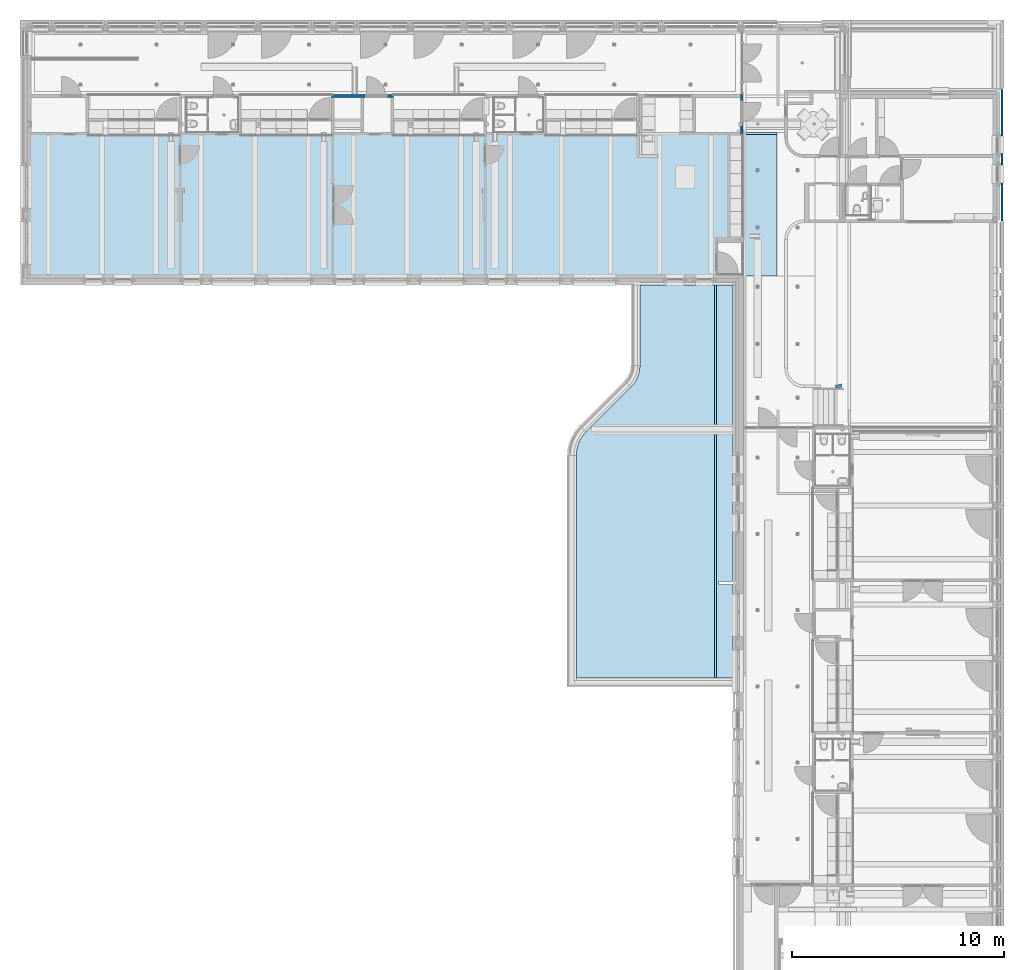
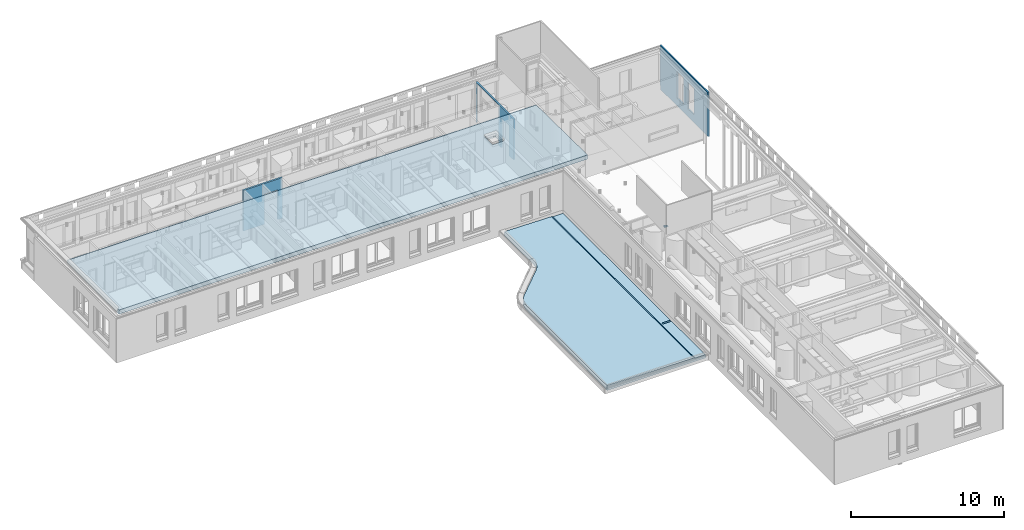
# One storey, part 61 of 128: 4 walls, 2 roofs.
"""IFC2X3 building model written with IfcOpenShell, lengths in millimetres."""

import ifcopenshell
import ifcopenshell.guid

model = None  # the IFC model being written
_history = None  # IfcOwnerHistory: only IFC2X3 demands one
_inside = {}  # id of a spatial element -> (the spatial element, [elements in it])
_under = {}  # id of a project, library or spatial element -> (it, [spatial elements below it])
_declared = {}  # id of a project -> (the project, [libraries it declares])
_typed = {}  # id of a type object -> (the type object, [elements of that type])
_made_of = {}  # id of a material, layer set ... -> (it, [elements and type objects made of it])


def new_model(schema):
    """Start an empty IFC model of exactly this schema.

    Asked for "IFC4X3", IfcOpenShell would pick the latest addendum, in which some entities
    have other attributes; the version numbers below select the first issue.
    IFC2X3 requires an IfcOwnerHistory on every rooted entity: one is made here for all.
    """
    global model, _history
    if schema == "IFC4X3":
        model = ifcopenshell.file(schema_version=(4, 3, 0, 0))
    else:
        model = ifcopenshell.file(schema=schema)
    _inside.clear()
    _under.clear()
    _declared.clear()
    _typed.clear()
    _made_of.clear()
    _history = None
    if model.schema == "IFC2X3":
        org = make("IfcOrganization", Name="unknown")
        user = make(
            "IfcPersonAndOrganization",
            ThePerson=make("IfcPerson", FamilyName="unknown"),
            TheOrganization=org,
        )
        app = make(
            "IfcApplication",
            ApplicationDeveloper=org,
            Version="unknown",
            ApplicationFullName="unknown",
            ApplicationIdentifier="unknown",
        )
        _history = make(
            "IfcOwnerHistory",
            OwningUser=user,
            OwningApplication=app,
            ChangeAction="ADDED",
            CreationDate=0,
        )
    return model


def make(cls, **values):
    """One entity of the class cls with the attributes given. An attribute that is None is left unset."""
    return model.create_entity(
        cls, **{name: value for name, value in values.items() if value is not None}
    )


def entity(cls, *values):
    """Any entity or typed value of the class cls, its attributes in the order of the schema. None: left unset."""
    e = model.create_entity(cls)
    for i, value in enumerate(values):
        if value is not None:
            e[i] = value
    return e


def rooted(cls, **values):
    """An entity with a GlobalId (a new one), such as an element, a storey or a relation."""
    return make(cls, GlobalId=ifcopenshell.guid.new(), OwnerHistory=_history, **values)


def si_unit(unit_type, name, prefix=None):
    """IfcSIUnit, for example si_unit("LENGTHUNIT", "METRE", prefix="MILLI")."""
    return make("IfcSIUnit", UnitType=unit_type, Prefix=prefix, Name=name)


def converted_unit(unit_type, name, factor, base, dimensions=None, offset=None):
    """IfcConversionBasedUnit, such as the inch: factor (a typed value) times the base unit."""
    return make(
        "IfcConversionBasedUnit"
        if offset is None
        else "IfcConversionBasedUnitWithOffset",
        ConversionOffset=offset,
        Dimensions=None
        if dimensions is None
        else entity("IfcDimensionalExponents", *dimensions),
        UnitType=unit_type,
        Name=name,
        ConversionFactor=make(
            "IfcMeasureWithUnit", ValueComponent=factor, UnitComponent=base
        ),
    )


def derived_unit(unit_type, elements):
    """IfcDerivedUnit: a product of units, each with its exponent."""
    return make(
        "IfcDerivedUnit",
        Elements=[
            make("IfcDerivedUnitElement", Unit=unit, Exponent=power)
            for unit, power in elements
        ],
        UnitType=unit_type,
    )


def assignment(units):
    """IfcUnitAssignment: the units of a project."""
    return None if units is None else make("IfcUnitAssignment", Units=units)


def point(xyz):
    """IfcCartesianPoint."""
    return None if xyz is None else make("IfcCartesianPoint", Coordinates=xyz)


def direction(xyz):
    """IfcDirection."""
    return None if xyz is None else make("IfcDirection", DirectionRatios=xyz)


def frame(location, z_axis=None, x_axis=None):
    """IfcAxis2Placement3D, a coordinate frame: its origin and axes. An axis left out is left unset."""
    return make(
        "IfcAxis2Placement3D",
        Location=point(location),
        Axis=direction(z_axis),
        RefDirection=direction(x_axis),
    )


def origin():
    """The frame at (0, 0, 0) with its axes left unset."""
    return frame((0.0, 0.0, 0.0))


def place(relative_to, where):
    """IfcLocalPlacement: puts the frame where relative to a parent placement (None: the world)."""
    return make(
        "IfcLocalPlacement", PlacementRelTo=relative_to, RelativePlacement=where
    )


def context(
    kind, dimensions, precision=None, world=None, true_north=None, identifier=None
):
    """IfcGeometricRepresentationContext, for example the 3D "Model" context."""
    return make(
        "IfcGeometricRepresentationContext",
        ContextIdentifier=identifier,
        ContextType=kind,
        CoordinateSpaceDimension=dimensions,
        Precision=precision,
        WorldCoordinateSystem=world,
        TrueNorth=true_north,
    )


def subcontext(parent, identifier, kind, view, scale=None):
    """IfcGeometricRepresentationSubContext, for example "Body" below "Model"."""
    return make(
        "IfcGeometricRepresentationSubContext",
        ContextIdentifier=identifier,
        ContextType=kind,
        ParentContext=parent,
        TargetScale=scale,
        TargetView=view,
    )


def project(units=None, contexts=None):
    """IfcProject with its units and contexts."""
    return rooted(
        "IfcProject",
        Name="project",
        RepresentationContexts=contexts,
        UnitsInContext=assignment(units),
    )


def spatial(cls, under=None, at=None, **own):
    """A site, building, storey or space (cls), placed at a placement, below another one or the project."""
    s = rooted(cls, ObjectPlacement=at, **own)
    if under is not None:
        _under.setdefault(under.id(), (under, []))[1].append(s)
    return s


def faces_of(points, faces, orient=None, outer=None):
    """IfcFace entities. A face is a list of loops; a loop is a list of indices into points, from 0.

    orient and outer hold one flag for each loop. By default every Orientation is true, the
    first loop of a face is its IfcFaceOuterBound and the others are IfcFaceBound.
    """
    made = []
    for i, loops in enumerate(faces):
        bounds = []
        for j, loop in enumerate(loops):
            is_outer = j == 0 if outer is None else outer[i][j]
            bounds.append(
                make(
                    "IfcFaceOuterBound" if is_outer else "IfcFaceBound",
                    Bound=make("IfcPolyLoop", Polygon=[points[k] for k in loop]),
                    Orientation=True if orient is None else orient[i][j],
                )
            )
        made.append(make("IfcFace", Bounds=bounds))
    return made


def faceted_brep(points, faces, orient=None, outer=None, voids=None):
    """IfcFacetedBrep: a solid bounded by flat faces; with voids (closed shells), ...WithVoids."""
    shared = [point(p) for p in points]
    hull = make("IfcClosedShell", CfsFaces=faces_of(shared, faces, orient, outer))
    if voids is None:
        return make("IfcFacetedBrep", Outer=hull)
    return make(
        "IfcFacetedBrepWithVoids",
        Outer=hull,
        Voids=[
            make(cls, CfsFaces=faces_of(shared, fs, o, b)) for cls, fs, o, b in voids
        ],
    )


def shape(context_of_items, identifier, shape_type, items):
    """IfcShapeRepresentation: the items that make up one representation, for example the "Body"."""
    return make(
        "IfcShapeRepresentation",
        ContextOfItems=context_of_items,
        RepresentationIdentifier=identifier,
        RepresentationType=shape_type,
        Items=items,
    )


def material(Name=None, Category=None):
    """IfcMaterial."""
    return make("IfcMaterial", Name=Name, Category=Category)


def layer(
    of_material, thickness, ventilated=None, Name=None, Category=None, Priority=None
):
    """IfcMaterialLayer: one layer of a wall or slab, of a material (None: an air gap)."""
    return make(
        "IfcMaterialLayer",
        Material=of_material,
        LayerThickness=thickness,
        IsVentilated=ventilated,
        Name=Name,
        Category=Category,
        Priority=Priority,
    )


def layer_set(layers, Name=None):
    """IfcMaterialLayerSet."""
    return make("IfcMaterialLayerSet", MaterialLayers=layers, LayerSetName=Name)


def made_of(thing, what):
    """Note that an element or type object is made of a material, layer set ...; save() writes the relation."""
    if what is not None:
        _made_of.setdefault(what.id(), (what, []))[1].append(thing)
    return thing


def type_object(cls, material=None, **own):
    """A type object (cls), such as IfcWallType, which elements share."""
    return made_of(rooted(cls, **own), material)


def element(
    cls,
    number,
    at=None,
    inside=None,
    cuts=None,
    type_object=None,
    material=None,
    context=None,
    identifier="Body",
    shape_type=None,
    held_by="IfcProductDefinitionShape",
    body=None,
    shapes=None,
    **own,
):
    """One element of the class cls, such as IfcWall. Its Tag is "e" and its number.

    at: its placement. inside: the storey or other place that contains it. cuts: it is an
    opening in that element (IfcRelVoidsElement). A single representation is given by context,
    identifier, shape_type and body (its items); several are given by shapes. held_by: the class
    of the entity that holds the representations. save() writes the other relations.
    """
    e = rooted(cls, Tag="e%d" % number, ObjectPlacement=at, **own)
    if body is not None:
        shapes = [shape(context, identifier, shape_type, body)]
    if shapes is not None:
        e.Representation = make(held_by, Representations=shapes)
    if inside is not None:
        _inside.setdefault(inside.id(), (inside, []))[1].append(e)
    if cuts is not None:
        rooted(
            "IfcRelVoidsElement", RelatingBuildingElement=cuts, RelatedOpeningElement=e
        )
    if type_object is not None:
        _typed.setdefault(type_object.id(), (type_object, []))[1].append(e)
    return made_of(e, material)


def aggregate(whole, parts):
    """IfcRelAggregates: a whole, such as a stair, and the parts it consists of."""
    return rooted("IfcRelAggregates", RelatingObject=whole, RelatedObjects=parts)


def save(model, path):
    """Write the relations noted so far, then the file.

    IfcRelAggregates (storeys below a building ...), IfcRelContainedInSpatialStructure (elements
    in a storey), IfcRelDefinesByType, IfcRelAssociatesMaterial and IfcRelDeclares: one each for
    every whole, place, type object, material and project.
    """
    for whole, parts in _under.values():
        aggregate(whole, parts)
    for where, things in _inside.values():
        rooted(
            "IfcRelContainedInSpatialStructure",
            RelatedElements=things,
            RelatingStructure=where,
        )
    for kind, things in _typed.values():
        rooted("IfcRelDefinesByType", RelatedObjects=things, RelatingType=kind)
    for what, things in _made_of.values():
        rooted("IfcRelAssociatesMaterial", RelatedObjects=things, RelatingMaterial=what)
    for by, libraries in _declared.values():
        rooted("IfcRelDeclares", RelatingContext=by, RelatedDefinitions=libraries)
    model.write(path)


model = new_model("IFC2X3")

# Units and contexts
model_context = context("Model", 3, precision=0.01, world=origin(), true_north=direction((6.123031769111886e-17, 1.0)))
body_context = subcontext(model_context, "Body", "Model", "MODEL_VIEW")
ifc_project = project(units=[si_unit("LENGTHUNIT", "METRE", prefix="MILLI"), si_unit("AREAUNIT", "SQUARE_METRE"), si_unit("VOLUMEUNIT", "CUBIC_METRE"), converted_unit("PLANEANGLEUNIT", "DEGREE", entity("IfcRatioMeasure", 0.017453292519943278), si_unit("PLANEANGLEUNIT", "RADIAN"), dimensions=[0, 0, 0, 0, 0, 0, 0]), si_unit("MASSUNIT", "GRAM", prefix="KILO"), derived_unit("MASSDENSITYUNIT", [(si_unit("MASSUNIT", "GRAM", prefix="KILO"), 1), (si_unit("LENGTHUNIT", "METRE"), -3)]), derived_unit("IONCONCENTRATIONUNIT", [(si_unit("MASSUNIT", "GRAM", prefix="KILO"), 1), (si_unit("LENGTHUNIT", "METRE"), -3)]), derived_unit("MOMENTOFINERTIAUNIT", [(si_unit("LENGTHUNIT", "METRE"), 4)]), si_unit("TIMEUNIT", "SECOND"), si_unit("FREQUENCYUNIT", "HERTZ"), si_unit("THERMODYNAMICTEMPERATUREUNIT", "DEGREE_CELSIUS"), derived_unit("THERMALTRANSMITTANCEUNIT", [(si_unit("MASSUNIT", "GRAM", prefix="KILO"), 1), (si_unit("THERMODYNAMICTEMPERATUREUNIT", "KELVIN"), -1), (si_unit("TIMEUNIT", "SECOND"), -3)]), derived_unit("THERMALCONDUCTANCEUNIT", [(si_unit("MASSUNIT", "GRAM", prefix="KILO"), 1), (si_unit("THERMODYNAMICTEMPERATUREUNIT", "KELVIN"), -1), (si_unit("TIMEUNIT", "SECOND"), -3), (si_unit("LENGTHUNIT", "METRE"), 1)]), derived_unit("VOLUMETRICFLOWRATEUNIT", [(si_unit("LENGTHUNIT", "METRE"), 3), (si_unit("TIMEUNIT", "SECOND"), -1)]), derived_unit("MASSFLOWRATEUNIT", [(si_unit("MASSUNIT", "GRAM", prefix="KILO"), 1), (si_unit("TIMEUNIT", "SECOND"), -1)]), derived_unit("ROTATIONALFREQUENCYUNIT", [(si_unit("TIMEUNIT", "SECOND"), -1)]), si_unit("ELECTRICCURRENTUNIT", "AMPERE"), si_unit("ELECTRICVOLTAGEUNIT", "VOLT"), si_unit("POWERUNIT", "WATT"), si_unit("FORCEUNIT", "NEWTON", prefix="KILO"), si_unit("ILLUMINANCEUNIT", "LUX"), si_unit("LUMINOUSFLUXUNIT", "LUMEN"), si_unit("LUMINOUSINTENSITYUNIT", "CANDELA"), derived_unit("USERDEFINED", [(si_unit("MASSUNIT", "GRAM", prefix="KILO"), -1), (si_unit("LENGTHUNIT", "METRE"), -2), (si_unit("TIMEUNIT", "SECOND"), 3), (si_unit("LUMINOUSFLUXUNIT", "LUMEN"), 1)]), derived_unit("USERDEFINED", [(si_unit("MASSUNIT", "GRAM", prefix="KILO"), 1), (si_unit("TIMEUNIT", "SECOND"), -3), (si_unit("LENGTHUNIT", "METRE"), 3), (si_unit("ELECTRICCURRENTUNIT", "AMPERE"), -2)]), derived_unit("SOUNDPOWERUNIT", [(si_unit("MASSUNIT", "GRAM", prefix="KILO"), 1), (si_unit("TIMEUNIT", "SECOND"), -3), (si_unit("LENGTHUNIT", "METRE"), 2)]), derived_unit("SOUNDPRESSUREUNIT", [(si_unit("MASSUNIT", "GRAM", prefix="KILO"), 1), (si_unit("LENGTHUNIT", "METRE"), -1), (si_unit("TIMEUNIT", "SECOND"), -2)]), derived_unit("LINEARVELOCITYUNIT", [(si_unit("LENGTHUNIT", "METRE"), 1), (si_unit("TIMEUNIT", "SECOND"), -1)]), si_unit("PRESSUREUNIT", "PASCAL"), derived_unit("USERDEFINED", [(si_unit("MASSUNIT", "GRAM", prefix="KILO"), 1), (si_unit("LENGTHUNIT", "METRE"), -2), (si_unit("TIMEUNIT", "SECOND"), -2)]), derived_unit("LINEARFORCEUNIT", [(si_unit("MASSUNIT", "GRAM", prefix="KILO"), 1), (si_unit("TIMEUNIT", "SECOND"), -2)]), derived_unit("PLANARFORCEUNIT", [(si_unit("MASSUNIT", "GRAM", prefix="KILO"), 1), (si_unit("LENGTHUNIT", "METRE"), -1), (si_unit("TIMEUNIT", "SECOND"), -2)]), derived_unit("SPECIFICHEATCAPACITYUNIT", [(si_unit("THERMODYNAMICTEMPERATUREUNIT", "KELVIN"), -1), (si_unit("LENGTHUNIT", "METRE"), 2), (si_unit("TIMEUNIT", "SECOND"), -2)]), derived_unit("HEATINGVALUEUNIT", [(si_unit("LENGTHUNIT", "METRE"), 2), (si_unit("TIMEUNIT", "SECOND"), -2)]), derived_unit("VAPORPERMEABILITYUNIT", [(si_unit("LENGTHUNIT", "METRE"), -1), (si_unit("TIMEUNIT", "SECOND"), 1)]), derived_unit("DYNAMICVISCOSITYUNIT", [(si_unit("MASSUNIT", "GRAM", prefix="KILO"), 1), (si_unit("TIMEUNIT", "SECOND"), -1), (si_unit("LENGTHUNIT", "METRE"), -1)]), derived_unit("THERMALEXPANSIONCOEFFICIENTUNIT", [(si_unit("THERMODYNAMICTEMPERATUREUNIT", "KELVIN"), -1)]), derived_unit("MODULUSOFELASTICITYUNIT", [(si_unit("MASSUNIT", "GRAM", prefix="KILO"), 1), (si_unit("LENGTHUNIT", "METRE"), -1), (si_unit("TIMEUNIT", "SECOND"), -2)]), derived_unit("ISOTHERMALMOISTURECAPACITYUNIT", [(si_unit("LENGTHUNIT", "METRE"), 3), (si_unit("MASSUNIT", "GRAM", prefix="KILO"), -1)]), derived_unit("MOISTUREDIFFUSIVITYUNIT", [(si_unit("TIMEUNIT", "SECOND"), -1), (si_unit("LENGTHUNIT", "METRE"), 2)])], contexts=[model_context])

# Site, building, storey
site_placement = place(None, frame((0.0, 300.0, 0.0)))
site = spatial("IfcSite", under=ifc_project, at=site_placement, Name="<Kadastrale nummers>", CompositionType="ELEMENT")
building_placement = place(site_placement, origin())
building = spatial("IfcBuilding", under=site, at=building_placement, CompositionType="ELEMENT")
storey_placement = place(building_placement, frame((0.0, 0.0, 3560.0000331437)))
storey = spatial("IfcBuildingStorey", under=building, at=storey_placement, Name="01 eerste verdieping", CompositionType="ELEMENT", Elevation=3560.0000331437)

# Walls
ifc_material_1 = material(Name="ISR_Metselwerk")
ifc_layer_1 = layer(ifc_material_1, 100.0)
ifc_layer_set_1 = layer_set([ifc_layer_1], Name="Basic Wall:21_DAT_metselwerk_100")
wall_type_1 = type_object("IfcWallType", Name="Basic Wall:21_DAT_metselwerk_100", PredefinedType="STANDARD", material=ifc_layer_set_1)
wall_1_placement = place(storey_placement, frame((48925.0, 40740.0, 90.00000187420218), z_axis=(0.0, 0.0, 1.0), x_axis=(0.0, 1.0, 0.0)))
element("IfcWall", 1, at=wall_1_placement, inside=storey, type_object=wall_type_1, Name="Basic Wall:21_DAT_metselwerk_100", ObjectType="Basic Wall:21_DAT_metselwerk_100", context=body_context, shape_type="Brep", body=[
    faceted_brep([(0.0, -50.0, 0.0), (6210.0, -50.0, 0.0), (6210.0, -50.0, 299.99996498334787), (6260.0, -50.0, 299.99996498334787), (6260.0, -50.0, 625.0), (6260.0, -50.0, 3500.0), (0.0, -50.0, 3500.0), (1792.125002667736, -50.0, 625.0), (1792.125002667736, -50.0, 2750.0), (2632.1250026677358, -50.0, 2750.0), (2632.1250026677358, -50.0, 625.0), (3172.1250026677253, -50.0, 625.0), (3172.1250026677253, -50.0, 2750.0), (4012.1250026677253, -50.0, 2750.0), (4012.1250026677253, -50.0, 625.0), (0.0, 50.0, 0.0), (0.0, 50.0, 3500.0), (6160.0, 50.0, 3500.0), (6260.0, 50.0, 3500.0), (6260.0, 50.0, 625.0), (6260.0, 50.0, 299.99996498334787), (6210.0, 50.0, 299.99996498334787), (6210.0, 50.0, 0.0), (3172.1250026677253, 50.0, 2750.0), (3172.1250026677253, 50.0, 625.0), (4012.1250026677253, 50.0, 625.0), (4012.1250026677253, 50.0, 2750.0), (1792.125002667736, 50.0, 2750.0), (1792.125002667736, 50.0, 625.0), (2632.1250026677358, 50.0, 625.0), (2632.1250026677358, 50.0, 2750.0)], [[[0, 1, 2, 3, 4, 5, 6], [7, 8, 9, 10], [11, 12, 13, 14]], [[15, 16, 17, 18, 19, 20, 21, 22], [23, 24, 25, 26], [27, 28, 29, 30]], [[1, 0, 15, 22]], [[6, 5, 18, 17, 16]], [[2, 1, 22, 21]], [[20, 3, 2, 21]], [[0, 6, 16, 15]], [[3, 20, 19, 18, 5, 4]], [[27, 8, 7, 28]], [[10, 29, 28, 7]], [[9, 30, 29, 10]], [[8, 27, 30, 9]], [[23, 12, 11, 24]], [[14, 25, 24, 11]], [[13, 26, 25, 14]], [[12, 23, 26, 13]]]),
])
ifc_material_2 = material(Name="ISR_Gips")
ifc_layer_2 = layer(ifc_material_2, 1.0)
ifc_material_3 = material(Name="ISR_Binnenwand")
ifc_layer_3 = layer(ifc_material_3, 123.0)
ifc_layer_4 = layer(ifc_material_2, 1.0)
ifc_layer_set_2 = layer_set([ifc_layer_2, ifc_layer_3, ifc_layer_4], Name="Basic Wall:22_DAT_binnenwand_125")
wall_type_2 = type_object("IfcWallType", Name="Basic Wall:22_DAT_binnenwand_125", PredefinedType="STANDARD", material=ifc_layer_set_2)
wall_2_placement = place(storey_placement, frame((17280.0, 46637.49999999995, 90.00000187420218)))
element("IfcWall", 2, at=wall_2_placement, inside=storey, type_object=wall_type_2, Name="Basic Wall:22_DAT_binnenwand_125", ObjectType="Basic Wall:22_DAT_binnenwand_125", context=body_context, shape_type="Brep", body=[
    faceted_brep([(2925.0, -62.49999999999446, 3240.0000290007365), (2800.0, -62.49999999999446, 3240.0000290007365), (125.0, -62.49999999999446, 3240.0000290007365), (0.0, -62.49999999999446, 3240.0000290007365), (0.0, -62.49999999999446, 0.0), (125.0, -62.49999999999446, 0.0), (1586.001376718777, -62.49999999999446, 0.0), (1586.001376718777, -62.49999999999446, 2390.0), (2620.0013767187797, -62.49999999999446, 2390.0), (2620.0013767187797, -62.49999999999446, 0.0), (2800.0, -62.49999999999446, 0.0), (2925.0, -62.49999999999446, 0.0), (2925.0, 62.50000000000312, 0.0), (2620.001376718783, 62.50000000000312, 0.0), (2620.001376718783, 62.50000000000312, 2390.0), (1586.0013767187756, 62.50000000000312, 2390.0), (1586.0013767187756, 62.50000000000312, 0.0), (0.0, 62.50000000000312, 0.0), (0.0, 62.50000000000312, 2400.000022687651), (62.500000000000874, 62.50000000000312, 2400.000022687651), (62.500000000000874, 62.50000000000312, 3240.0000290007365), (2925.0, 62.50000000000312, 3240.0000290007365), (2925.0, 62.50000000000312, 2400.000022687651), (62.50000000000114, 37.49999999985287, 3240.0000290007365), (0.0, 37.49999999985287, 3240.0000290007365), (0.0, 37.49999999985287, 2400.000022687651), (62.50000000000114, 37.49999999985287, 3240.0), (62.50000000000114, 37.49999999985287, 2400.000022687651)], [[[0, 1, 2, 3, 4, 5, 6, 7, 8, 9, 10, 11]], [[12, 13, 14, 15, 16, 17, 18, 19, 20, 21, 22]], [[6, 5, 4, 17, 16]], [[3, 2, 1, 0, 21, 20, 23, 24]], [[8, 14, 13, 9]], [[14, 8, 7, 15]], [[15, 7, 6, 16]], [[17, 4, 3, 24, 25, 18]], [[0, 11, 12, 22, 21]], [[26, 27, 25, 24]], [[27, 19, 18, 25]], [[27, 23, 20, 19]], [[11, 10, 9, 13, 12]]]),
])
wall_3_placement = place(storey_placement, frame((36637.50000000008, 49700.0, 90.00000187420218), z_axis=(0.0, 0.0, 1.0), x_axis=(0.0, -1.0, 0.0)))
element("IfcWall", 3, at=wall_3_placement, inside=storey, type_object=wall_type_2, Name="Basic Wall:22_DAT_binnenwand_125", ObjectType="Basic Wall:22_DAT_binnenwand_125", context=body_context, shape_type="Brep", body=[
    faceted_brep([(4910.0, -62.50000000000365, 0.0), (4910.0, -62.50000000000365, 3240.0), (4785.0, -62.50000000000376, 3240.0), (3125.0, -62.500000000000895, 3240.0), (3000.0, -62.500000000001, 3240.0), (0.0, -62.50000000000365, 3240.0), (0.0, -62.50000000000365, 0.0), (15.0, -62.50000000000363, 0.0), (15.0, -62.50000000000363, 3190.0), (2985.0, -62.50000000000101, 3190.0), (2985.0, -62.50000000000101, 0.0), (3000.0, -62.500000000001, 0.0), (3125.0, -62.500000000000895, 0.0), (3295.89025057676, -62.50000000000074, 0.0), (3295.8902505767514, -62.50000000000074, 2390.0), (4329.890250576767, -62.50000000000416, 2390.0), (4329.890250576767, -62.50000000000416, 0.0), (4785.0, -62.50000000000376, 0.0), (0.0, 62.49999999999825, 0.0), (0.0, 62.49999999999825, 3240.0), (4890.0, 62.49999999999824, 3240.0), (4890.0, 62.49999999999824, 2400.000022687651), (4910.0, 62.49999999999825, 2400.000022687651), (4910.0, 62.49999999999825, 0.0), (4329.890250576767, 62.49999999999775, 0.0), (4329.890250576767, 62.49999999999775, 2390.0), (3295.89025057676, 62.500000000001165, 2390.0), (3295.89025057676, 62.500000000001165, 0.0), (2985.0, 62.500000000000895, 0.0), (2985.0, 62.500000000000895, 3190.0), (15.0, 62.499999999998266, 3190.0), (15.0, 62.499999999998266, 0.0), (4910.0, 37.50000000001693, 2400.000022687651), (4910.0, 37.50000000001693, 3240.0), (4890.0, 37.50000000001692, 3240.0), (4890.0, 37.50000000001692, 2400.000022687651)], [[[0, 1, 2, 3, 4, 5, 6, 7, 8, 9, 10, 11, 12, 13, 14, 15, 16, 17]], [[18, 19, 20, 21, 22, 23, 24, 25, 26, 27, 28, 29, 30, 31]], [[6, 18, 31, 7]], [[1, 0, 23, 22, 32, 33]], [[5, 4, 3, 2, 1, 33, 34, 20, 19]], [[6, 5, 19, 18]], [[30, 8, 7, 31]], [[8, 30, 29, 9]], [[9, 29, 28, 10]], [[15, 25, 24, 16]], [[25, 15, 14, 26]], [[26, 14, 13, 27]], [[35, 34, 33, 32]], [[21, 35, 32, 22]], [[34, 35, 21, 20]], [[10, 28, 27, 13, 12, 11]], [[23, 0, 17, 16, 24]]]),
])
wall_type_3 = type_object("IfcWallType", Name="Walls 1:Walls 1", PredefinedType="NOTDEFINED", material=ifc_material_2)
wall_4_placement = place(storey_placement, frame((41075.0, 32870.0, 359.9999668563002)))
element("IfcWall", 4, at=wall_4_placement, inside=storey, type_object=wall_type_3, material=ifc_material_2, Name="Walls 1:Walls 1", ObjectType="Walls 1:Walls 1", context=body_context, shape_type="Brep", body=[
    faceted_brep([(139.79387877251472, 10.624436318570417, 0.0), (70.11480911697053, 2.6611720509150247, 0.0), (0.0, 0.0, 0.0), (0.0, 125.0, 0.0), (93.85347124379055, 130.52437045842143, 0.0), (186.40688508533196, 147.02026170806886, 0.0), (278.2305647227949, 108.26149128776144, 0.0), (208.6774036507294, 23.84588376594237, 0.0), (174.2356412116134, 17.235160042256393, 0.0), (276.3744898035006, 42.25307058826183, 0.0), (260.36658394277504, 37.9004384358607, 0.06589740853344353), (217.33106029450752, 156.38174952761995, 0.029665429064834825), (246.85277504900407, 165.31867900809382, 0.05798548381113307), (261.61363242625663, 169.78714374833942, 0.07214551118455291), (0.0, 0.0, 61.96309018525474), (110.98105335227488, 6.681860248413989, 50.69367660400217), (136.88119570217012, 10.183877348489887, 36.44884538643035), (260.6789533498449, 37.61389954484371, 1.4963996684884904), (254.3100776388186, 35.73143417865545, 2.068582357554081), (247.94120192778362, 33.848968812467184, 2.6407650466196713), (244.35867808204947, 33.54780628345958, 0.04548927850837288), (252.36263101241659, 35.724122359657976, 0.05569334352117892), (55.59100974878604, 1.6719761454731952, 90.57450799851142), (219.53821666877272, 26.43004088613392, 7.545264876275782), (226.51804086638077, 28.696845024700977, 0.02274463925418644), (191.39986822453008, 20.01873475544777, 14.823517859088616), (0.0, 0.0, 96.28153385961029), (38.70766918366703, 1.1641864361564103, 102.73051320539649), (0.0, 0.0, 130.6000350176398), (163.76663955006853, 14.612451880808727, 24.470094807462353), (233.73970929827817, 30.139504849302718, 5.093014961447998), (0.0, 125.0, 98.8574094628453), (0.0, 125.0, 130.60003501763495), (35.86593715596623, 126.24841588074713, 104.7765602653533), (55.62515286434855, 126.93619154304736, 90.54992495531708), (0.0, 125.0, 67.11478390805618), (219.8402864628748, 155.7989544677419, 7.480425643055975), (164.02039946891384, 141.9946944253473, 24.36962090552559), (191.7135068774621, 148.31091723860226, 14.728597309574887), (248.14318088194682, 164.4574556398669, 2.6143978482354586), (261.9904070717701, 169.26336949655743, 1.37438924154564), (276.3744898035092, 174.2556084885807, 0.0), (110.98105335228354, 132.735394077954, 50.69367660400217), (137.02355304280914, 136.82200873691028, 36.378194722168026)], [[[0, 1, 2, 3, 4, 5, 6, 7, 8]], [[6, 9, 10]], [[6, 5, 11, 12, 13]], [[14, 1, 15]], [[16, 1, 0]], [[15, 1, 16]], [[10, 17, 18, 19, 20, 21]], [[2, 1, 14]], [[22, 14, 15]], [[23, 7, 24]], [[10, 9, 17]], [[25, 8, 7]], [[26, 14, 22, 27, 28]], [[29, 8, 25]], [[29, 0, 8]], [[20, 19, 30]], [[25, 7, 23]], [[24, 30, 23]], [[0, 29, 16]], [[20, 30, 24]], [[31, 32, 33, 34, 35]], [[36, 12, 11, 5]], [[5, 37, 38]], [[5, 38, 36]], [[13, 12, 39, 40]], [[5, 4, 37]], [[39, 12, 36]], [[40, 41, 13]], [[42, 3, 35]], [[42, 35, 34]], [[43, 4, 42]], [[3, 42, 4]], [[37, 4, 43]], [[32, 31, 35, 3, 2, 14, 26, 28]], [[15, 42, 34, 33, 32, 28, 27, 22]], [[6, 19, 18, 17]], [[36, 23, 30, 19]], [[6, 41, 40]], [[6, 39, 36]], [[36, 19, 6]], [[36, 38, 23]], [[29, 25, 37]], [[16, 29, 43]], [[15, 16, 42]], [[25, 38, 37]], [[16, 43, 42]], [[43, 29, 37]], [[23, 38, 25]], [[6, 10, 21, 20, 24, 7]], [[6, 13, 41]], [[6, 17, 9]], [[6, 40, 39]]]),
])

# Roofs
ifc_material_4 = material(Name="ISR_Grind")
ifc_layer_5 = layer(ifc_material_4, 50.0)
ifc_material_5 = material(Name="ISR_Bitumen")
ifc_layer_6 = layer(ifc_material_5, 2.0)
ifc_layer_7 = layer(ifc_material_5, 2.0)
ifc_material_6 = material(Name="ISR_Dak_isolatie")
ifc_layer_8 = layer(ifc_material_6, 200.0)
ifc_layer_set_3 = layer_set([ifc_layer_5, ifc_layer_6, ifc_layer_7, ifc_layer_8], Name="Basic Roof:300_27_dakisolatie+dakleer+grind")
roof_1_placement = place(storey_placement, frame((28832.4416244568, 19163.998623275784, 0.0)))
element("IfcRoof", 5, at=roof_1_placement, inside=storey, material=ifc_layer_set_3, Name="Basic Roof:300_27_dakisolatie+dakleer+grind", ObjectType="Basic Roof:300_27_dakisolatie+dakleer+grind", ShapeType="NOTDEFINED", context=body_context, shape_type="Brep", body=[
    faceted_brep([(7392.558375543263, 4552.0, 254.0), (7392.558375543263, 4552.0, 0.0), (7392.558375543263, 18561.00137672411, 0.0), (7392.558375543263, 18561.00137672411, 254.0), (7392.558375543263, 0.0, 254.0), (7392.558375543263, 0.0, 0.0), (7392.558375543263, 4402.0, 0.0), (7392.558375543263, 4402.0, 254.0), (460.2660729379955, 11612.593077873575, 0.0), (2581.5864164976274, 13733.913421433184, 0.0), (2666.1030237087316, 13826.147113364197, 0.0), (2742.2593237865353, 13925.395935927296, 0.0), (2809.4757213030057, 14030.904545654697, 0.0), (2867.2406588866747, 14141.869958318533, 0.0), (2915.11451048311, 14257.44766012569, 0.0), (2952.7329271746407, 14376.758034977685, 0.0), (2979.8096100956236, 14498.893058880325, 0.0), (2996.1384893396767, 14622.92321055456, 0.0), (3001.595292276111, 14747.904545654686, 0.0), (3001.595292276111, 18561.00137672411, 0.0), (6742.55837554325, 4552.0, 0.0), (6742.55837554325, 4402.0, 0.0), (1.5952922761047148, 0.0, 0.0), (1.5952922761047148, 10505.26385853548, 0.0), (7.554395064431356, 10641.749751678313, 0.0), (25.386351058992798, 10777.196904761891, 0.0), (54.95544830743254, 10910.574483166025, 0.0), (96.03664812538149, 11040.867402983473, 0.0), (148.31729777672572, 11167.084056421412, 0.0), (211.3995099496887, 11288.263858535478, 0.0), (284.8031909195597, 11403.484557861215, 0.0), (367.969694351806, 11511.869255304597, 0.0), (3001.595292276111, 18561.00137672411, 343.1999668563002), (3001.595292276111, 14747.904545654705, 343.16734565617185), (6517.558375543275, 18561.00137672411, 299.9999668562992), (6621.558375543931, 18561.00137672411, 254.0), (1.5952922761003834, 0.0, 379.99996685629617), (6621.558375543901, 0.0, 254.0), (6517.558375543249, 0.0, 299.9999668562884), (1.5952922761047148, 10505.263810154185, 379.9887765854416), (460.26607293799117, 11612.593077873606, 374.3686178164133), (284.79567075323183, 11403.473817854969, 375.5981805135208), (367.88904680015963, 11511.773135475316, 374.9811443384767), (211.42719209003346, 11288.311803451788, 376.22748494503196), (148.329136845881, 11167.109444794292, 376.86449934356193), (96.02706732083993, 11040.841079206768, 377.5040853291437), (25.388627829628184, 10777.209816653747, 378.7704041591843), (54.9411203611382, 10910.521006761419, 378.1410997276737), (7.5653356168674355, 10641.874745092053, 379.3874403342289), (2581.5864164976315, 13733.91342143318, 348.3240215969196), (2979.8075411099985, 14498.881325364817, 344.3132736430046), (2996.128475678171, 14622.80880664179, 343.74030964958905), (2952.746067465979, 14376.807078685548, 344.8862376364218), (2915.1232938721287, 14257.471792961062, 345.45920162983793), (2867.2298051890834, 14141.846683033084, 346.03216562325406), (2742.266157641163, 13925.40569576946, 347.1780936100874), (2809.4503337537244, 14030.860574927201, 346.6051296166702), (2666.1768387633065, 13826.235089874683, 347.7510576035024), (6742.55837554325, 4402.0, 254.0), (6742.55837554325, 4552.0, 254.0), (4559.31313288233, 8631.651871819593, 324.381196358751), (4406.298582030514, 10133.520352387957, 326.4664958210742), (6517.558375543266, 13920.751032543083, 299.99996685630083), (4705.200245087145, 15001.681104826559, 322.61530840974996), (4513.9522420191, 13989.159774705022, 325.1720827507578), (4570.793849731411, 10853.142583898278, 324.5163002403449), (6517.558375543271, 16240.8762046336, 299.99996685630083), (5228.327993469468, 17162.81824226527, 315.82854495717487), (5074.319793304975, 5035.938756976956, 317.71938685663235), (6517.558375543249, 2320.125172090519, 299.99996685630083), (4621.442442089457, 12916.9126025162, 323.90976387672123), (6517.558375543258, 6960.375516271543, 299.99996685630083), (4467.630800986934, 12061.882899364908, 325.8681764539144), (6517.558375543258, 9280.500688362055, 299.99996685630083), (6517.558375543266, 11600.625860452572, 299.99996685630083), (6517.5583755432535, 4640.25034418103, 299.99996685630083)], [[[0, 1, 2, 3]], [[4, 5, 6, 7]], [[8, 9, 10, 11, 12, 13, 14, 15, 16, 17, 18, 19, 2, 1, 20, 21, 6, 5, 22, 23, 24, 25, 26, 27, 28, 29, 30, 31]], [[32, 19, 18, 33]], [[2, 19, 32, 34, 35, 3]], [[36, 22, 5, 4, 37, 38]], [[39, 23, 22, 36]], [[40, 8, 31]], [[41, 30, 29]], [[31, 30, 42]], [[43, 29, 28]], [[42, 40, 31]], [[43, 41, 29]], [[44, 43, 28]], [[42, 30, 41]], [[28, 27, 44]], [[45, 27, 26]], [[46, 25, 24]], [[26, 25, 47]], [[48, 24, 23]], [[45, 26, 47]], [[24, 48, 46]], [[46, 47, 25]], [[48, 23, 39]], [[27, 45, 44]], [[49, 9, 8, 40]], [[33, 18, 17]], [[50, 16, 15]], [[17, 16, 51]], [[52, 15, 14]], [[51, 33, 17]], [[15, 52, 50]], [[50, 51, 16]], [[53, 52, 14]], [[14, 13, 53]], [[54, 13, 12]], [[55, 11, 10]], [[12, 11, 56]], [[57, 10, 9]], [[56, 54, 12]], [[10, 57, 55]], [[55, 56, 11]], [[49, 57, 9]], [[13, 54, 53]], [[21, 58, 7, 6]], [[20, 1, 0, 59]], [[21, 20, 59, 58]], [[55, 60, 61]], [[62, 63, 64]], [[56, 65, 54]], [[66, 34, 67]], [[68, 38, 69]], [[51, 50, 63]], [[68, 60, 57]], [[53, 70, 52]], [[55, 57, 60]], [[71, 65, 61]], [[70, 72, 73]], [[72, 54, 65]], [[66, 63, 62]], [[74, 70, 73]], [[61, 75, 71]], [[64, 63, 50]], [[67, 51, 63]], [[67, 33, 51]], [[57, 49, 68]], [[75, 60, 69]], [[68, 69, 60]], [[52, 70, 64]], [[67, 63, 66]], [[55, 61, 56]], [[73, 65, 71]], [[70, 53, 72]], [[64, 74, 62]], [[54, 72, 53]], [[73, 72, 65]], [[75, 61, 60]], [[56, 61, 65]], [[52, 64, 50]], [[64, 70, 74]], [[49, 40, 39]], [[39, 36, 38]], [[39, 38, 68, 49]], [[4, 7, 58, 59, 0, 3, 35, 37]], [[43, 47, 39]], [[47, 46, 48]], [[39, 47, 48]], [[43, 45, 47]], [[39, 40, 43]], [[43, 40, 42]], [[41, 43, 42]], [[44, 45, 43]], [[37, 35, 34, 66, 62, 74, 73, 71, 75, 69, 38]], [[32, 33, 67, 34]]]),
])
ifc_layer_9 = layer(ifc_material_5, 2.0)
ifc_layer_10 = layer(ifc_material_5, 2.0)
ifc_layer_11 = layer(ifc_material_6, 200.0)
ifc_layer_set_4 = layer_set([ifc_layer_9, ifc_layer_10, ifc_layer_11], Name="Basic Roof:300_27_dakisolatie+dakleer")
roof_2_placement = place(storey_placement, frame((3034.0, 38134.0, 3590.0)))
element("IfcRoof", 6, at=roof_2_placement, inside=storey, material=ifc_layer_set_4, Name="Basic Roof:300_27_dakisolatie+dakleer", ObjectType="Basic Roof:300_27_dakisolatie+dakleer", ShapeType="NOTDEFINED", context=body_context, shape_type="Brep", body=[
    faceted_brep([(35281.0, 6781.0, 0.0), (35281.0, 0.0, 0.0), (0.0, 0.0, 0.0), (0.0, 6781.0, 0.0), (31306.0, 5129.036956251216, 0.0), (30606.0, 5129.036956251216, 0.0), (30606.0, 4229.036956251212, 0.0), (31306.0, 4229.036956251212, 0.0), (0.0, 6781.0, 204.0), (35281.0, 6781.0, 204.0), (0.0, 0.0, 329.9999649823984), (0.0, 6681.0, 249.99996498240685), (35281.0, 0.0, 329.9999649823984), (35281.0, 6681.0, 249.99996498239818), (30532.0, 5203.036956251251, 267.69747186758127), (31380.0, 5203.036956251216, 267.69747186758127), (31380.0, 4155.036956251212, 280.24649147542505), (30532.0, 4155.0369562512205, 280.24649147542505), (31306.0, 5129.036956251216, 104.0), (30606.0, 5129.036956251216, 104.0), (30606.0, 4229.036956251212, 104.0), (31306.0, 4229.036956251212, 104.0), (31380.0, 5203.036956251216, 104.0), (30532.0, 5203.036956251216, 104.0), (30532.0, 4155.036956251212, 104.0), (31380.0, 4155.036956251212, 104.0)], [[[0, 1, 2, 3], [4, 5, 6, 7]], [[0, 3, 8, 9]], [[3, 2, 10, 11, 8]], [[2, 1, 12, 10]], [[1, 0, 9, 13, 12]], [[10, 12, 13, 11], [14, 15, 16, 17]], [[4, 18, 19, 5]], [[5, 19, 20, 6]], [[6, 20, 21, 7]], [[18, 4, 7, 21]], [[19, 18, 21, 20], [22, 23, 24, 25]], [[23, 22, 15, 14]], [[24, 23, 14, 17]], [[25, 24, 17, 16]], [[22, 25, 16, 15]], [[9, 8, 11, 13]]], outer=[[True, False], [True], [True], [True], [True], [True, False], [True], [True], [True], [True], [False, True], [True], [True], [True], [True], [True]]),
])

save(model, "model.ifc")
